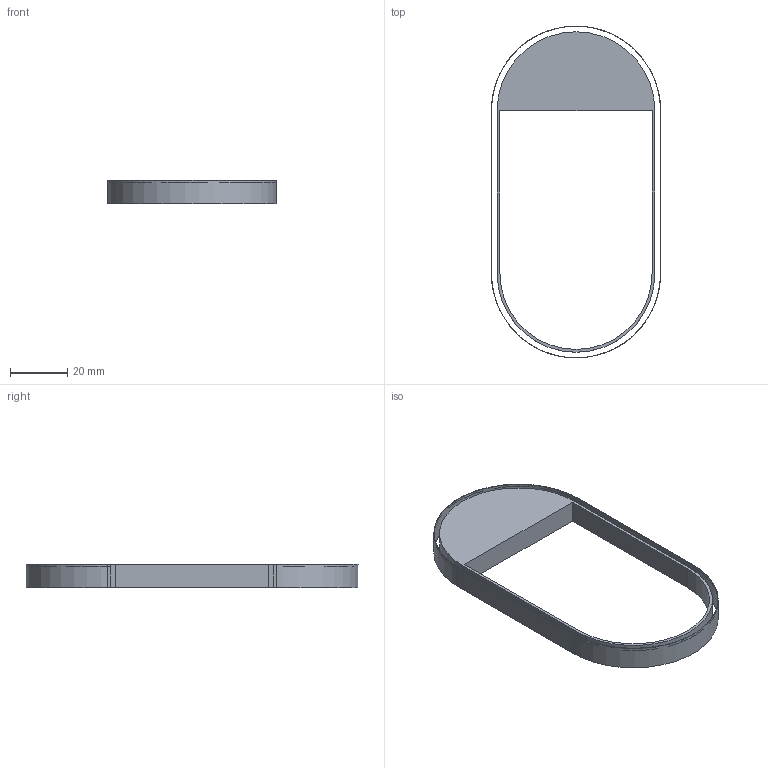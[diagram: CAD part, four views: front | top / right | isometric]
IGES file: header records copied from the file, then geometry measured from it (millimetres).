
Start section:  PTC IGES file: black_prt.igs
Global section: file name: black_prt.igs; native system: Pro/ENGINEER by Parametric Technology Corporation; preprocessor: 2006170; author: GRA; organization: Unknown; date: 20080630.105138; units: millimetre
Bounding box: 59 x 115.7 x 8.32 mm (x, y, z)
Surface area: 14399.9 mm2 (no closed solid volume)
Topology: 0 solids, 0 shells, 18 faces, 164 edges, 210 vertices
Faces by surface type: bspline 11, revolution 7
